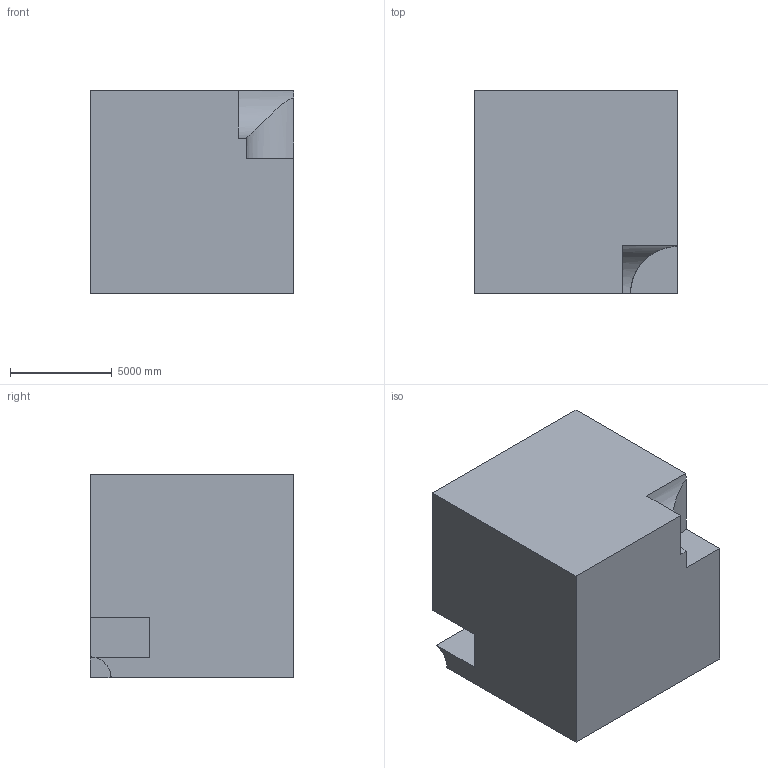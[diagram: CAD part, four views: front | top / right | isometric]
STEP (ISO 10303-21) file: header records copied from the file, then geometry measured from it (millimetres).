
FILE_DESCRIPTION (( 'STEP AP203' ), '1' );
FILE_NAME ('85.STEP', '2022-08-31T11:28:36', ( 'user' ), ( '' ), 'SwSTEP 2.0', 'SolidWorks 2021', '' );
FILE_SCHEMA (( 'CONFIG_CONTROL_DESIGN' ));
Length unit declared in the file: centimetre
Products named in the file (1): 85
Bounding box: 10000 x 10000 x 10000 mm (x, y, z)
Volume: 958261595202.6 mm3; surface area: 620437886.8 mm2
Topology: 1 solids, 1 shells, 20 faces, 54 edges, 36 vertices
Faces by surface type: plane 16, cylinder 4
Entity records: 817 total; most frequent: CARTESIAN_POINT 227, ORIENTED_EDGE 108, DIRECTION 103, EDGE_CURVE 54, VECTOR 45, LINE 45, VERTEX_POINT 36, AXIS2_PLACEMENT_3D 29
